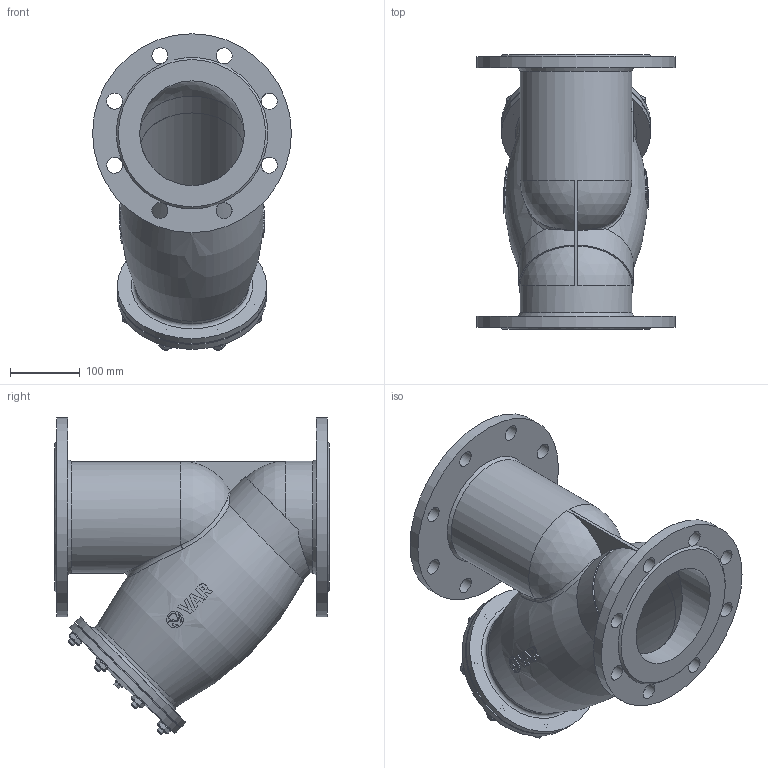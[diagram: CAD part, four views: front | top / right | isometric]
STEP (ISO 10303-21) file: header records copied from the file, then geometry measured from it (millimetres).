
FILE_DESCRIPTION(('STEP AP203'), '1');
FILE_NAME('VAR STRAINER ôèëüòð-ãðÿçåóëîâèòåëü', '', ('UNSPECIFIED'), ('UNSPECIFIED'), 'C3D Converter', 'C3D Toolkit', '');
FILE_SCHEMA(('CONFIG_CONTROL_DESIGN'));
Length unit declared in the file: millimetre
Assembly tree (29 placements, depth 2):
  (unnamed)
    (unnamed)
    (unnamed)
    (unnamed)  x8
    (unnamed)  x8
    (unnamed)  x8
    (unnamed)
    (unnamed)
    (unnamed)
Bounding box: 285 x 394 x 453.5 mm (x, y, z)
Volume: 3972358.8 mm3; surface area: 1212061.8 mm2
Topology: 30 solids, 30 shells, 557 faces, 1377 edges, 896 vertices
Faces by surface type: plane 230, extrusion 138, cylinder 88, cone 60, torus 27, sphere 8, bspline 6
Full cylindrical faces by diameter (mm): 10 x26, 11 x8, 12 x8, 15 x1, 18 x8, 23 x16, 23.683 x1, 150 x6, 154 x3, 160 x1, 164 x1, 168 x1, 170 x2, 214 x2, 285 x2
Entity records: 27318 total; most frequent: CARTESIAN_POINT 15124, ORIENTED_EDGE 1950, DIRECTION 1487, EDGE_CURVE 975, VERTEX_POINT 694, EDGE_LOOP 595, B_SPLINE_CURVE_WITH_KNOTS 584, AXIS2_PLACEMENT_3D 538
